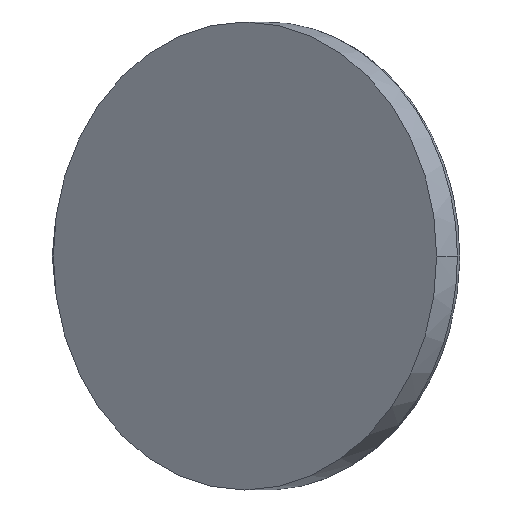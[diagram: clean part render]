
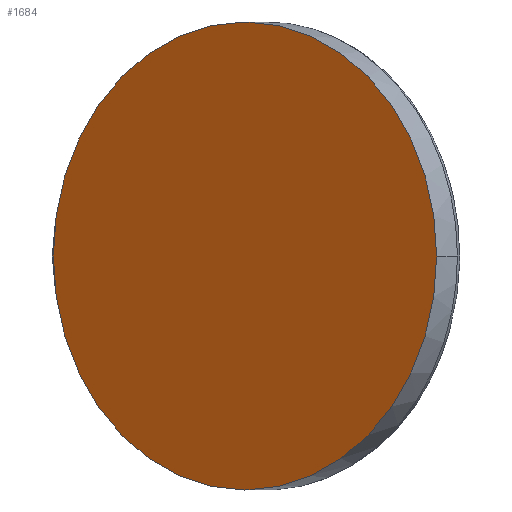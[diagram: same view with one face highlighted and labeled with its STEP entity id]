
A CAD part, front view. The second image highlights one B-rep face of the part: STEP entity #1684.
In plain terms, the highlighted planar face has unit normal (-0.574, -0.819, 0).
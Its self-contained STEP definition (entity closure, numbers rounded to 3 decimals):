
#26 = VERTEX_POINT ( 'NONE', #1041 ) ;
#1041 = CARTESIAN_POINT ( 'NONE',  ( 1372.74, -1566.758, 0. ) ) ;
#1684 = ADVANCED_FACE ( 'NONE', ( #11490 ), #3068, .T. ) ;
#2555 = AXIS2_PLACEMENT_3D ( 'NONE', #3718, #9005, #2648 ) ;
#2648 = DIRECTION ( 'NONE',  ( 0.819, -0.574, 0. ) ) ;
#2919 = DIRECTION ( 'NONE',  ( -0.574, -0.819, 0. ) ) ;
#3068 = PLANE ( 'NONE',  #2555 ) ;
#3718 = CARTESIAN_POINT ( 'NONE',  ( 1372.74, -1566.758, 0. ) ) ;
#5051 = CARTESIAN_POINT ( 'NONE',  ( 1296.559, -1513.415, 0. ) ) ;
#5393 = CIRCLE ( 'NONE', #5634, 93. ) ;
#5634 = AXIS2_PLACEMENT_3D ( 'NONE', #9282, #2919, #10332 ) ;
#5744 = CIRCLE ( 'NONE', #6364, 93. ) ;
#6128 = DIRECTION ( 'NONE',  ( -0.819, 0.574, 0. ) ) ;
#6364 = AXIS2_PLACEMENT_3D ( 'NONE', #5051, #12486, #6128 ) ;
#7688 = ORIENTED_EDGE ( 'NONE', *, *, #11733, .T. ) ;
#9005 = DIRECTION ( 'NONE',  ( -0.574, -0.819, 0. ) ) ;
#9282 = CARTESIAN_POINT ( 'NONE',  ( 1296.559, -1513.415, 0. ) ) ;
#10020 = VERTEX_POINT ( 'NONE', #13269 ) ;
#10332 = DIRECTION ( 'NONE',  ( -0.819, 0.574, 0. ) ) ;
#10523 = ORIENTED_EDGE ( 'NONE', *, *, #11628, .T. ) ;
#10658 = EDGE_LOOP ( 'NONE', ( #7688, #10523 ) ) ;
#11490 = FACE_OUTER_BOUND ( 'NONE', #10658, .T. ) ;
#11628 = EDGE_CURVE ( 'NONE', #26, #10020, #5393, .T. ) ;
#11733 = EDGE_CURVE ( 'NONE', #10020, #26, #5744, .T. ) ;
#12486 = DIRECTION ( 'NONE',  ( -0.574, -0.819, 0. ) ) ;
#13269 = CARTESIAN_POINT ( 'NONE',  ( 1220.377, -1460.072, 0. ) ) ;
